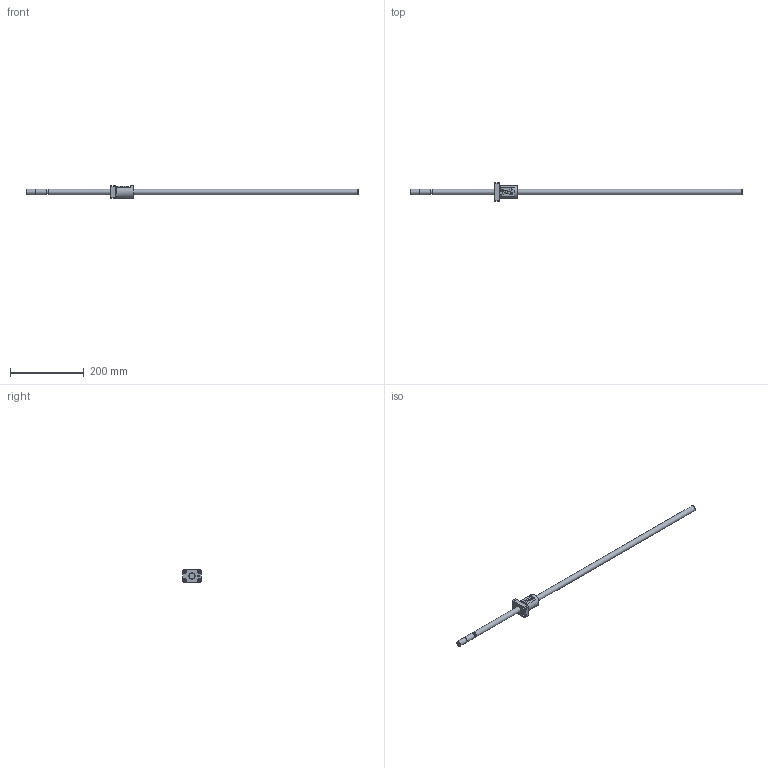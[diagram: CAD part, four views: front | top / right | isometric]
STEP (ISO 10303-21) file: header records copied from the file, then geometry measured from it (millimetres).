
FILE_DESCRIPTION (( 'STEP AP214' ), '1' );
FILE_NAME ('KBS(C)1520-900.STEP', '2021-07-05T02:17:45', ( '' ), ( '' ), 'SwSTEP 2.0', 'SolidWorks 2019', '' );
FILE_SCHEMA (( 'AUTOMOTIVE_DESIGN' ));
Length unit declared in the file: millimetre
Products named in the file (3): KBS1520; KBS1520-900; KBS(C)1520-900
Assembly tree (2 placements, depth 2):
  KBS(C)1520-900
    KBS1520-900
    KBS1520
Bounding box: 900 x 50 x 34 mm (x, y, z)
Volume: 207355.8 mm3; surface area: 57732.5 mm2
Topology: 2 solids, 2 shells, 103 faces, 259 edges, 171 vertices
Faces by surface type: plane 55, cylinder 40, cone 4, torus 4
Full cylindrical faces by diameter (mm): 3.2 x1, 5 x1, 5.5 x4, 5.6 x2, 9.5 x4, 12.5 x1, 14.5 x1, 15 x3, 17 x2, 34 x1
Entity records: 3297 total; most frequent: CARTESIAN_POINT 862, DIRECTION 464, ORIENTED_EDGE 448, EDGE_CURVE 224, AXIS2_PLACEMENT_3D 176, VERTEX_POINT 164, EDGE_LOOP 158, FACE_OUTER_BOUND 127
